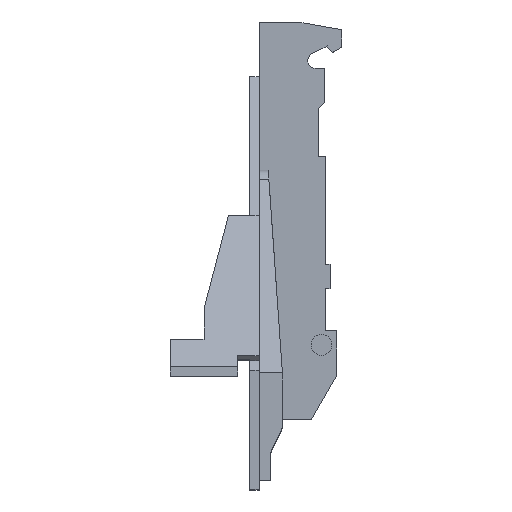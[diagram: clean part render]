
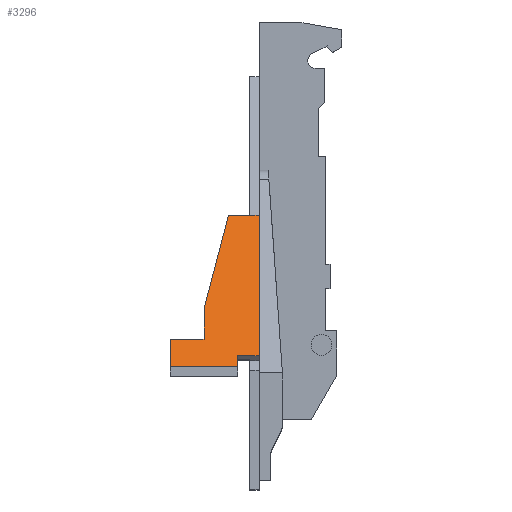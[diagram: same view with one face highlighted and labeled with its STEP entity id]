
A CAD part, top view. The second image highlights one B-rep face of the part: STEP entity #3296.
In plain terms, the highlighted planar face has unit normal (0, 0.432, 0.902).
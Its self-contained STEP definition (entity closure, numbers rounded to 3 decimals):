
#13 = VECTOR ( 'NONE', #2226, 1000. ) ;
#15 = LINE ( 'NONE', #2212, #13 ) ;
#54 = LINE ( 'NONE', #2396, #55 ) ;
#55 = VECTOR ( 'NONE', #2397, 1000. ) ;
#252 = VECTOR ( 'NONE', #1967, 1000. ) ;
#259 = LINE ( 'NONE', #1983, #252 ) ;
#308 = VECTOR ( 'NONE', #2108, 1000. ) ;
#319 = LINE ( 'NONE', #2122, #308 ) ;
#357 = LINE ( 'NONE', #2209, #359 ) ;
#359 = VECTOR ( 'NONE', #2208, 1000. ) ;
#1155 = ORIENTED_EDGE ( 'NONE', *, *, #2775, .T. ) ;
#1156 = ORIENTED_EDGE ( 'NONE', *, *, #3177, .T. ) ;
#1157 = ORIENTED_EDGE ( 'NONE', *, *, #3012, .F. ) ;
#1158 = ORIENTED_EDGE ( 'NONE', *, *, #2862, .F. ) ;
#1170 = ORIENTED_EDGE ( 'NONE', *, *, #2700, .T. ) ;
#1171 = ORIENTED_EDGE ( 'NONE', *, *, #2857, .T. ) ;
#1181 = ORIENTED_EDGE ( 'NONE', *, *, #2952, .F. ) ;
#1189 = ORIENTED_EDGE ( 'NONE', *, *, #2874, .F. ) ;
#1195 = ORIENTED_EDGE ( 'NONE', *, *, #2730, .T. ) ;
#1386 = EDGE_LOOP ( 'NONE', ( #1155, #1171, #1156, #1170, #1158, #1157, #1195, #1181, #1189 ) ) ;
#1516 = VERTEX_POINT ( 'NONE', #1799 ) ;
#1520 = VERTEX_POINT ( 'NONE', #1796 ) ;
#1530 = VERTEX_POINT ( 'NONE', #1806 ) ;
#1533 = VERTEX_POINT ( 'NONE', #1809 ) ;
#1545 = VERTEX_POINT ( 'NONE', #1851 ) ;
#1546 = VERTEX_POINT ( 'NONE', #1850 ) ;
#1547 = VERTEX_POINT ( 'NONE', #1849 ) ;
#1607 = VERTEX_POINT ( 'NONE', #1900 ) ;
#1609 = VERTEX_POINT ( 'NONE', #1898 ) ;
#1796 = CARTESIAN_POINT ( 'NONE',  ( -7.5, 15.562, 29.79 ) ) ;
#1799 = CARTESIAN_POINT ( 'NONE',  ( -2., 12.857, 31.086 ) ) ;
#1806 = CARTESIAN_POINT ( 'NONE',  ( -13., 11., 31.976 ) ) ;
#1809 = CARTESIAN_POINT ( 'NONE',  ( -2., 11., 31.976 ) ) ;
#1849 = CARTESIAN_POINT ( 'NONE',  ( -7.5, 20.522, 27.414 ) ) ;
#1850 = CARTESIAN_POINT ( 'NONE',  ( -3.5, 35.853, 20.068 ) ) ;
#1851 = CARTESIAN_POINT ( 'NONE',  ( -13., 15.562, 29.79 ) ) ;
#1898 = CARTESIAN_POINT ( 'NONE',  ( 1.5, 12.857, 31.086 ) ) ;
#1900 = CARTESIAN_POINT ( 'NONE',  ( 1.5, 35.853, 20.068 ) ) ;
#1967 = DIRECTION ( 'NONE',  ( -0.229, -0.878, 0.421 ) ) ;
#1983 = CARTESIAN_POINT ( 'NONE',  ( -7.5, 20.522, 27.414 ) ) ;
#2051 = CARTESIAN_POINT ( 'NONE',  ( 1.5, 35.853, 20.068 ) ) ;
#2056 = DIRECTION ( 'NONE',  ( 1., 0., 0. ) ) ;
#2062 = DIRECTION ( 'NONE',  ( 0., -0.902, 0.432 ) ) ;
#2064 = CARTESIAN_POINT ( 'NONE',  ( -7.5, 15.562, 29.79 ) ) ;
#2070 = DIRECTION ( 'NONE',  ( -1., 0., 0. ) ) ;
#2072 = CARTESIAN_POINT ( 'NONE',  ( -2., 11., 31.976 ) ) ;
#2108 = DIRECTION ( 'NONE',  ( 1., 0., 0. ) ) ;
#2122 = CARTESIAN_POINT ( 'NONE',  ( 1.5, 12.857, 31.086 ) ) ;
#2208 = DIRECTION ( 'NONE',  ( 0., -0.902, 0.432 ) ) ;
#2209 = CARTESIAN_POINT ( 'NONE',  ( -13., 35.853, 20.068 ) ) ;
#2212 = CARTESIAN_POINT ( 'NONE',  ( 1.5, 35.853, 20.068 ) ) ;
#2226 = DIRECTION ( 'NONE',  ( 0., -0.902, 0.432 ) ) ;
#2396 = CARTESIAN_POINT ( 'NONE',  ( -2., 11., 31.976 ) ) ;
#2397 = DIRECTION ( 'NONE',  ( 0., -0.902, 0.432 ) ) ;
#2627 = DIRECTION ( 'NONE',  ( -1., 0., 0. ) ) ;
#2629 = CARTESIAN_POINT ( 'NONE',  ( -13., 15.562, 29.79 ) ) ;
#2700 = EDGE_CURVE ( 'NONE', #1545, #1530, #357, .T. ) ;
#2730 = EDGE_CURVE ( 'NONE', #1516, #1609, #319, .T. ) ;
#2775 = EDGE_CURVE ( 'NONE', #1546, #1547, #259, .T. ) ;
#2857 = EDGE_CURVE ( 'NONE', #1547, #1520, #4275, .T. ) ;
#2862 = EDGE_CURVE ( 'NONE', #1533, #1530, #4265, .T. ) ;
#2874 = EDGE_CURVE ( 'NONE', #1546, #1607, #4262, .T. ) ;
#2952 = EDGE_CURVE ( 'NONE', #1607, #1609, #15, .T. ) ;
#3012 = EDGE_CURVE ( 'NONE', #1516, #1533, #54, .T. ) ;
#3177 = EDGE_CURVE ( 'NONE', #1520, #1545, #4552, .T. ) ;
#3279 = AXIS2_PLACEMENT_3D ( 'NONE', #3527, #3530, #3531 ) ;
#3296 = ADVANCED_FACE ( 'NONE', ( #4353 ), #3528, .F. ) ;
#3527 = CARTESIAN_POINT ( 'NONE',  ( 1.5, 35.853, 20.068 ) ) ;
#3528 = PLANE ( 'NONE',  #3279 ) ;
#3530 = DIRECTION ( 'NONE',  ( 0., -0.432, -0.902 ) ) ;
#3531 = DIRECTION ( 'NONE',  ( 0., 0.902, -0.432 ) ) ;
#4242 = VECTOR ( 'NONE', #2056, 1000. ) ;
#4262 = LINE ( 'NONE', #2051, #4242 ) ;
#4264 = VECTOR ( 'NONE', #2070, 1000. ) ;
#4265 = LINE ( 'NONE', #2072, #4264 ) ;
#4274 = VECTOR ( 'NONE', #2062, 1000. ) ;
#4275 = LINE ( 'NONE', #2064, #4274 ) ;
#4353 = FACE_OUTER_BOUND ( 'NONE', #1386, .T. ) ;
#4552 = LINE ( 'NONE', #2629, #4553 ) ;
#4553 = VECTOR ( 'NONE', #2627, 1000. ) ;
